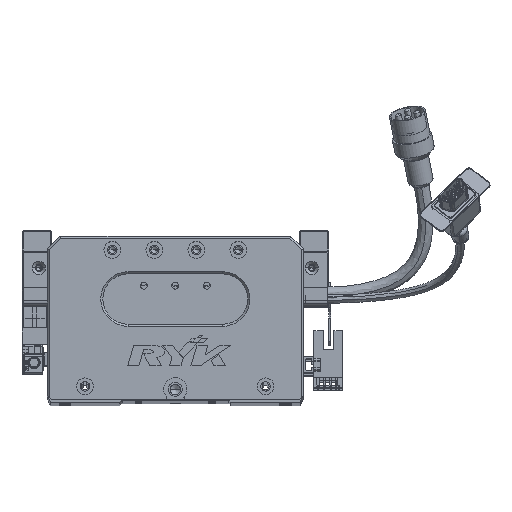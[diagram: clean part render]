
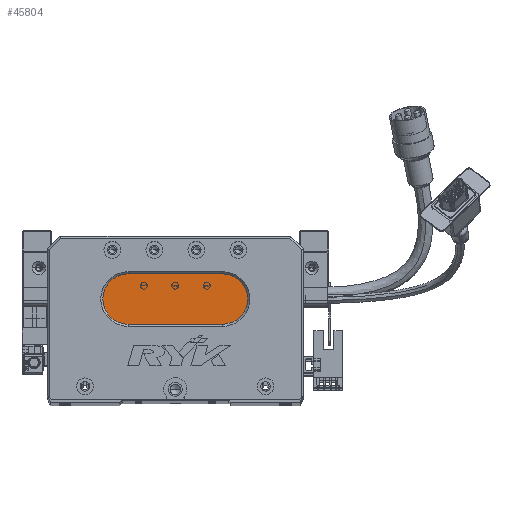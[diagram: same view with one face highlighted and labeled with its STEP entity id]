
A CAD part, top view. The second image highlights one B-rep face of the part: STEP entity #45804.
In plain terms, the highlighted planar face has unit normal (0, 0, 1) as drawn and (0, 0, -1) by its records, which use the part's own axes.
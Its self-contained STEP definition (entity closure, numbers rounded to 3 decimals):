
#3500 = CARTESIAN_POINT ( 'NONE',  ( 38.5, 48., 13. ) ) ;
#3572 = ORIENTED_EDGE ( 'NONE', *, *, #73190, .T. ) ;
#4872 = DIRECTION ( 'NONE',  ( 0., 0., -1. ) ) ;
#5016 = CIRCLE ( 'NONE', #56707, 12. ) ;
#11356 = VECTOR ( 'NONE', #62307, 1000. ) ;
#17285 = DIRECTION ( 'NONE',  ( -1., 0., 0. ) ) ;
#18399 = AXIS2_PLACEMENT_3D ( 'NONE', #47822, #4872, #17285 ) ;
#22938 = AXIS2_PLACEMENT_3D ( 'NONE', #28187, #57972, #27654 ) ;
#27654 = DIRECTION ( 'NONE',  ( -1., 0., 0. ) ) ;
#28122 = CARTESIAN_POINT ( 'NONE',  ( 26.5, 48., 13. ) ) ;
#28187 = CARTESIAN_POINT ( 'NONE',  ( 38.5, 48., 13. ) ) ;
#29694 = VERTEX_POINT ( 'NONE', #50787 ) ;
#31810 = FACE_OUTER_BOUND ( 'NONE', #33856, .T. ) ;
#33791 = DIRECTION ( 'NONE',  ( 0., 0., -1. ) ) ;
#33856 = EDGE_LOOP ( 'NONE', ( #50411, #78656, #49679, #3572, #71035 ) ) ;
#35421 = CARTESIAN_POINT ( 'NONE',  ( 83.5, 36., 13. ) ) ;
#39231 = EDGE_CURVE ( 'NONE', #65201, #53960, #64653, .T. ) ;
#41238 = AXIS2_PLACEMENT_3D ( 'NONE', #49588, #74233, #79649 ) ;
#42359 = VERTEX_POINT ( 'NONE', #28122 ) ;
#43912 = VERTEX_POINT ( 'NONE', #35421 ) ;
#45804 = ADVANCED_FACE ( 'NONE', ( #31810 ), #48647, .T. ) ;
#46722 = DIRECTION ( 'NONE',  ( -1., 0., 0. ) ) ;
#47504 = EDGE_CURVE ( 'NONE', #53960, #43912, #74072, .T. ) ;
#47822 = CARTESIAN_POINT ( 'NONE',  ( 83.5, 48., 13. ) ) ;
#48647 = PLANE ( 'NONE',  #18399 ) ;
#49587 = VECTOR ( 'NONE', #54001, 1000. ) ;
#49588 = CARTESIAN_POINT ( 'NONE',  ( 83.5, 48., 13. ) ) ;
#49679 = ORIENTED_EDGE ( 'NONE', *, *, #74971, .T. ) ;
#50411 = ORIENTED_EDGE ( 'NONE', *, *, #47504, .T. ) ;
#50787 = CARTESIAN_POINT ( 'NONE',  ( 38.5, 36., 13. ) ) ;
#51646 = CIRCLE ( 'NONE', #22938, 12. ) ;
#53470 = CARTESIAN_POINT ( 'NONE',  ( 83.5, 36., 13. ) ) ;
#53960 = VERTEX_POINT ( 'NONE', #64117 ) ;
#54001 = DIRECTION ( 'NONE',  ( -1., 0., 0. ) ) ;
#55810 = CARTESIAN_POINT ( 'NONE',  ( 83.5, 60., 13. ) ) ;
#56707 = AXIS2_PLACEMENT_3D ( 'NONE', #3500, #33791, #46722 ) ;
#57972 = DIRECTION ( 'NONE',  ( 0., 0., -1. ) ) ;
#62307 = DIRECTION ( 'NONE',  ( 1., 0., 0. ) ) ;
#64117 = CARTESIAN_POINT ( 'NONE',  ( 83.5, 60., 13. ) ) ;
#64364 = CARTESIAN_POINT ( 'NONE',  ( 38.5, 60., 13. ) ) ;
#64653 = LINE ( 'NONE', #55810, #11356 ) ;
#65201 = VERTEX_POINT ( 'NONE', #64364 ) ;
#71035 = ORIENTED_EDGE ( 'NONE', *, *, #39231, .T. ) ;
#71875 = LINE ( 'NONE', #53470, #49587 ) ;
#73190 = EDGE_CURVE ( 'NONE', #42359, #65201, #51646, .T. ) ;
#73907 = EDGE_CURVE ( 'NONE', #43912, #29694, #71875, .T. ) ;
#74072 = CIRCLE ( 'NONE', #41238, 12. ) ;
#74233 = DIRECTION ( 'NONE',  ( 0., 0., -1. ) ) ;
#74971 = EDGE_CURVE ( 'NONE', #29694, #42359, #5016, .T. ) ;
#78656 = ORIENTED_EDGE ( 'NONE', *, *, #73907, .T. ) ;
#79649 = DIRECTION ( 'NONE',  ( -1., 0., 0. ) ) ;
